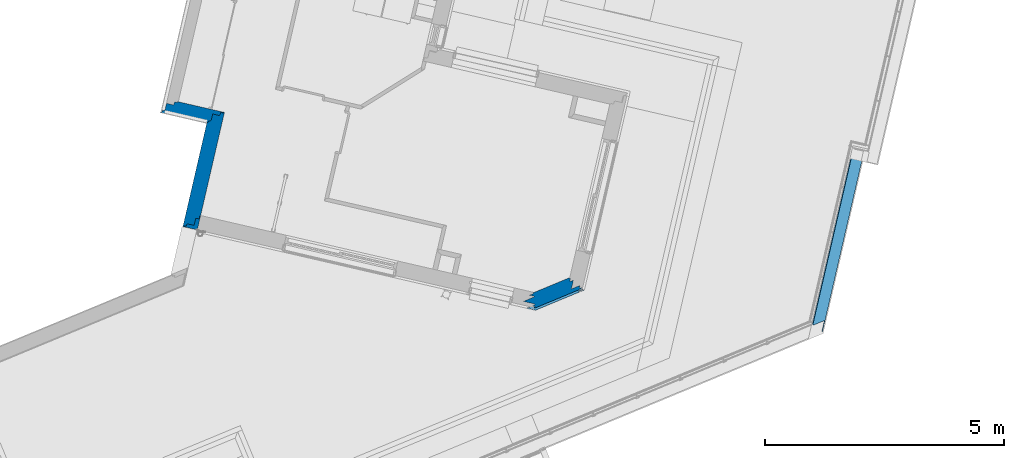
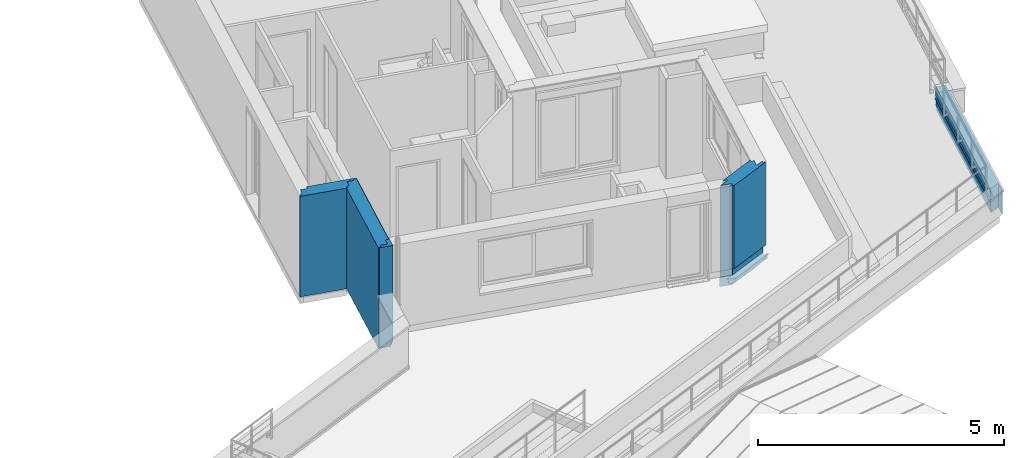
# One storey, part 6 of 47: 5 walls.
"""IFC2X3 building model written with IfcOpenShell, lengths in metres."""

from ifc_helpers import new_model, entity, si_unit, converted_unit, derived_unit, money_unit, direction, frame, origin_with_axes, place, context, subcontext, project, spatial, faceted_brep, material, material_list, type_object, element, save


model = new_model("IFC2X3")

# Units and contexts
model_context = context("Model", 3, precision=1e-05, world=origin_with_axes(), true_north=direction((0.0, 1.0)))
body_context = subcontext(model_context, "Body", "Model", "MODEL_VIEW")
ifc_project = project(units=[si_unit("LENGTHUNIT", "METRE"), si_unit("AREAUNIT", "SQUARE_METRE"), si_unit("VOLUMEUNIT", "CUBIC_METRE"), converted_unit("PLANEANGLEUNIT", "DEGREE", entity("IfcPlaneAngleMeasure", 0.0174532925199), si_unit("PLANEANGLEUNIT", "RADIAN"), dimensions=[0, 0, 0, 0, 0, 0, 0]), si_unit("SOLIDANGLEUNIT", "STERADIAN"), money_unit("EUR"), converted_unit("TIMEUNIT", "Year", entity("IfcTimeMeasure", 31556926.0), si_unit("TIMEUNIT", "SECOND"), dimensions=[0, 0, 1, 0, 0, 0, 0]), si_unit("MASSUNIT", "GRAM", prefix="KILO"), si_unit("THERMODYNAMICTEMPERATUREUNIT", "DEGREE_CELSIUS"), si_unit("LUMINOUSINTENSITYUNIT", "LUMEN"), si_unit("ENERGYUNIT", "JOULE", prefix="MEGA"), derived_unit("THERMALCONDUCTANCEUNIT", [(si_unit("POWERUNIT", "WATT"), 1), (si_unit("LENGTHUNIT", "METRE"), -1), (si_unit("THERMODYNAMICTEMPERATUREUNIT", "KELVIN"), -1)]), derived_unit("SPECIFICHEATCAPACITYUNIT", [(si_unit("ENERGYUNIT", "JOULE"), 1), (si_unit("MASSUNIT", "GRAM", prefix="KILO"), -1), (si_unit("THERMODYNAMICTEMPERATUREUNIT", "KELVIN"), -1)]), derived_unit("MASSDENSITYUNIT", [(si_unit("MASSUNIT", "GRAM", prefix="KILO"), 1), (si_unit("VOLUMEUNIT", "CUBIC_METRE"), -1)])], contexts=[model_context])

# Site, building, storey
site_placement = place(None, origin_with_axes())
site = spatial("IfcSite", under=ifc_project, at=site_placement, Name="Site", CompositionType="ELEMENT")
building_placement = place(site_placement, origin_with_axes())
building = spatial("IfcBuilding", under=site, at=building_placement, Name="Bâtiment", CompositionType="ELEMENT")
storey_placement = place(building_placement, frame((0.0, 0.0, 10.88), z_axis=(0.0, 0.0, 1.0), x_axis=(1.0, 0.0, 0.0)))
storey = spatial("IfcBuildingStorey", under=building, at=storey_placement, Name="R+4", CompositionType="ELEMENT", Elevation=10.88)

# Walls
ifc_material_1 = material(Name="Finition ext - Crépis")
ifc_material_2 = material(Name="Béton")
ifc_material_3 = material(Name="Etanchéité - Bitume")
ifc_material_4 = material(Name="Métal - Aluminium")
ifc_material_list_1 = material_list([ifc_material_1, ifc_material_2, ifc_material_3, ifc_material_1, ifc_material_4])
wall_type_1 = type_object("IfcWallType", Name="Acrotère pour plancher 23 isolée 242 x 600", PredefinedType="USERDEFINED")
wall_1_placement = place(storey_placement, frame((-5.37699047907, -10.3127234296, 0.02), z_axis=(0.0, 0.0, 1.0), x_axis=(-0.224876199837, -0.974387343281, 0.0)))
element("IfcWall", 1, at=wall_1_placement, inside=storey, type_object=wall_type_1, material=ifc_material_list_1, Name="Muret béton 20cm", ObjectType="PARAPET", context=body_context, shape_type="Brep", body=[
    faceted_brep([(0.0, 0.015, 0.318976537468), (0.0, 0.015, 0.357041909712), (0.0, 0.015, 0.600000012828), (3.67693870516, 0.015, 0.600000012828), (3.67693870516, 0.015, 0.357041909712), (3.67693870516, 0.015, 0.318976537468), (3.67693870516, 0.015, 0.309999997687), (3.67693870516, 0.015, 0.282881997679), (3.67693870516, 0.015, 0.100000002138), (3.67693870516, 0.015, 0.0), (0.0, 0.015, 0.0), (0.0, 0.015, 0.100000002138), (0.0, 0.015, 0.282881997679), (0.0, 0.015, 0.309999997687), (0.0, -3.20696358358e-10, 0.318976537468), (0.0, -3.20696358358e-10, 0.357041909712), (0.0, -3.20694582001e-10, 0.600000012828), (3.68764687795, -3.20697246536e-10, 0.600000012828), (3.68764687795, -3.2069547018e-10, 0.357041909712), (3.68764687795, -3.2069547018e-10, 0.318976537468), (3.68764687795, -3.2069547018e-10, 0.309999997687), (3.68764687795, -3.2069547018e-10, 0.282881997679), (3.68764687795, -3.2069547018e-10, 0.100000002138), (3.68764687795, -3.20697246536e-10, 0.0), (0.0, -3.20696358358e-10, 0.0), (0.0, -3.20696358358e-10, 0.100000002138), (0.0, -3.20696358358e-10, 0.282881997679), (0.0, -3.20696358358e-10, 0.309999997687)], [[[0, 1, 2, 3, 4, 5, 6, 7, 8, 9, 10, 11, 12, 13]], [[14, 15, 1, 0]], [[15, 16, 2, 1]], [[3, 2, 16, 17]], [[18, 4, 3, 17]], [[5, 4, 18, 19]], [[6, 5, 19, 20]], [[7, 6, 20, 21]], [[8, 7, 21, 22]], [[9, 8, 22, 23]], [[23, 24, 10, 9]], [[24, 25, 11, 10]], [[25, 26, 12, 11]], [[26, 27, 13, 12]], [[27, 14, 0, 13]], [[17, 16, 15, 14, 27, 26, 25, 24, 23, 22, 21, 20, 19, 18]]]),
    faceted_brep([(-0.2, 0.0, 0.318976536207), (-0.200000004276, 0.0, 0.357041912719), (-0.200000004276, 0.0, 0.600000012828), (3.44191351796, 0.0, 0.600000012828), (3.44191351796, 0.0, 0.357041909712), (3.44191351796, 0.0, 0.318976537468), (3.44191351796, 0.0, 0.309999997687), (3.44191351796, 0.0, 0.282881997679), (3.44191351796, 0.0, 0.100000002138), (3.44191351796, 0.0, 0.0), (-0.200000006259, 0.0, 0.0), (-0.200000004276, 0.0, 0.100000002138), (-0.200000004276, 0.0, 0.282881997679), (-0.200000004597, 0.0, 0.309999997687), (-0.199999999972, -0.200000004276, 0.318976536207), (-0.200000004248, -0.200000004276, 0.357041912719), (-0.200000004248, -0.200000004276, 0.600000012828), (3.58468915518, -0.200000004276, 0.600000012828), (3.58468915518, -0.200000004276, 0.357041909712), (3.58468915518, -0.200000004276, 0.318976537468), (3.58468915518, -0.200000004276, 0.309999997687), (3.58468915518, -0.200000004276, 0.282881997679), (3.58468915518, -0.200000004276, 0.100000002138), (3.58468915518, -0.200000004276, 0.0), (-0.200000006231, -0.200000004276, 0.0), (-0.200000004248, -0.200000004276, 0.100000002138), (-0.200000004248, -0.200000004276, 0.282881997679), (-0.200000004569, -0.200000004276, 0.309999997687)], [[[0, 1, 2, 3, 4, 5, 6, 7, 8, 9, 10, 11, 12, 13]], [[14, 15, 1, 0]], [[15, 16, 2, 1]], [[3, 2, 16, 17]], [[18, 4, 3, 17]], [[5, 4, 18, 19]], [[6, 5, 19, 20]], [[7, 6, 20, 21]], [[8, 7, 21, 22]], [[9, 8, 22, 23]], [[10, 9, 23, 24]], [[24, 25, 11, 10]], [[25, 26, 12, 11]], [[26, 27, 13, 12]], [[27, 14, 0, 13]], [[17, 16, 15, 14, 19, 18]], [[19, 14, 27, 20]], [[20, 27, 26, 25, 22, 21]], [[24, 23, 22, 25]]]),
    faceted_brep([(3.57240249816, -0.2, 0.109999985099), (-0.199999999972, -0.2, 0.109999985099), (-0.20999999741, -0.200000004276, 0.109999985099), (-0.209999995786, -0.200000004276, 0.282881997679), (-0.209999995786, -0.200000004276, 0.309999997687), (3.57240249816, -0.200000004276, 0.309999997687), (3.57240249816, -0.200000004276, 0.282881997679), (-0.209999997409, -0.209999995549, 0.109999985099), (3.57954127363, -0.209999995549, 0.109999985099), (-0.209999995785, -0.209999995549, 0.282881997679), (-0.209999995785, -0.209999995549, 0.309999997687), (3.57954127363, -0.209999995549, 0.309999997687), (3.57954127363, -0.209999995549, 0.282881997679)], [[[0, 1, 2, 3, 4, 5, 6]], [[7, 2, 1, 0, 8]], [[2, 7, 9, 3]], [[9, 10, 4, 3]], [[5, 4, 10, 11]], [[12, 6, 5, 11]], [[8, 0, 6, 12]], [[7, 8, 12, 11, 10, 9]]]),
    faceted_brep([(3.57696732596, -0.215000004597, 0.600000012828), (3.56625915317, -0.200000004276, 0.600000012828), (-0.215000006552, -0.200000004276, 0.600000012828), (-0.21500000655, -0.215000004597, 0.600000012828), (3.56625915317, -0.200000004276, 0.357041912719), (3.57696732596, -0.215000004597, 0.357041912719), (3.56700543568, -0.201045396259, 0.357041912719), (-0.215000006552, -0.200000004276, 0.357041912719), (-0.21500000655, -0.215000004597, 0.357041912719), (-0.215000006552, -0.201045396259, 0.357041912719)], [[[0, 1, 2, 3]], [[4, 1, 0, 5, 6]], [[1, 4, 7, 2]], [[8, 3, 2, 7, 9]], [[5, 0, 3, 8]], [[6, 5, 8, 9]], [[4, 6, 9, 7]]]),
    faceted_brep([(3.58340471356, -0.2, 0.357041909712), (3.58340471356, -0.2, 0.320023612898), (3.5790681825, -0.199999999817, 0.318976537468), (-0.204574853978, -0.2, 0.318976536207), (-0.201045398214, -0.2, 0.320023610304), (-0.201045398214, -0.2, 0.357041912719), (3.58415099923, -0.201045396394, 0.357041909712), (3.58415099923, -0.201045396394, 0.320023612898), (3.58233406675, -0.204574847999, 0.318976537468), (3.56709279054, -0.222655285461, 0.312179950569), (3.5696593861, -0.226250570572, 0.311101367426), (-0.227484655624, -0.226250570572, 0.311101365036), (-0.227484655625, -0.222655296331, 0.312179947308), (-0.201045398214, -0.201045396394, 0.320023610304), (-0.227484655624, -0.227484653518, 0.312179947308), (-0.201045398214, -0.201045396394, 0.357041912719), (3.57054037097, -0.227484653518, 0.312179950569), (3.57054037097, -0.227484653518, 0.309999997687), (3.5696593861, -0.226250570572, 0.309999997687), (3.5696593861, -0.226250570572, 0.282882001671), (-0.227484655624, -0.226250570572, 0.282881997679), (-0.227484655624, -0.227484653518, 0.282881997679), (3.57054037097, -0.227484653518, 0.282882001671)], [[[0, 1, 2, 3, 4, 5]], [[1, 0, 6, 7]], [[8, 2, 1, 7]], [[9, 10, 11, 12, 3, 2]], [[13, 4, 3, 12, 14]], [[13, 15, 5, 4]], [[6, 0, 5, 15]], [[7, 6, 15, 13]], [[2, 8, 16, 9]], [[8, 7, 13, 14, 16]], [[10, 9, 16, 17, 18]], [[10, 18, 19, 20, 11]], [[14, 12, 11, 20, 21]], [[17, 16, 14, 21, 22]], [[18, 17, 22, 19]], [[19, 22, 21, 20]]]),
])
ifc_material_5 = material(Name="Finition int - Plaque de plâtre")
ifc_material_6 = material(Name="Isolation - Laine de verre")
ifc_material_7 = material(Name="Etanchéité - Pare-vapeur")
ifc_material_8 = material(Name="Bois - Massif 01")
ifc_material_9 = material(Name="Bois - OSB 02")
ifc_material_10 = material(Name="Bois - Lattage")
ifc_material_11 = material(Name="Isolation - Polyuréthane (extérieur)")
ifc_material_12 = material(Name="Finition ext - Bardage bois")
ifc_material_list_2 = material_list([ifc_material_5, ifc_material_6, ifc_material_7, ifc_material_8, ifc_material_8, ifc_material_6, ifc_material_2, ifc_material_9, ifc_material_10, ifc_material_11, ifc_material_12, ifc_material_3, ifc_material_4])
wall_type_2 = type_object("IfcWallType", Name="Mur ossature Bois avec talon béton 358 x 2500", PredefinedType="ELEMENTEDWALL")
wall_2_placement = place(storey_placement, frame((-12.2050527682, -13.4002992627, 0.02), z_axis=(0.0, 0.0, 1.0), x_axis=(0.923701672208, 0.383112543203, 0.0)))
element("IfcWall", 2, at=wall_2_placement, inside=storey, type_object=wall_type_2, material=ifc_material_list_2, Name="M_Ext-009", ObjectType="ELEMENTEDWALL", context=body_context, shape_type="Brep", body=[
    faceted_brep([(0.0683179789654, 0.309999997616, 2.48), (0.910906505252, 0.309999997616, 2.48), (0.910906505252, 0.309999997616, 2.455), (0.910906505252, 0.309999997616, 0.435), (0.910906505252, 0.309999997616, 0.275), (0.910906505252, 0.309999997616, 0.23), (0.910906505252, 0.309999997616, 0.2), (0.910906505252, 0.309999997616, 0.100000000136), (0.910906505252, 0.309999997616, 0.0), (0.0683179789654, 0.309999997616, 0.0), (0.0683179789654, 0.309999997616, 0.100000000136), (0.0683179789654, 0.309999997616, 0.2), (0.0683179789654, 0.309999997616, 0.23), (0.0683179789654, 0.309999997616, 0.275), (0.0683179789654, 0.309999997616, 0.435), (0.0683179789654, 0.309999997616, 2.455), (0.898056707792, 0.292000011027, 2.48), (0.0935323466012, 0.292000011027, 2.48), (0.898056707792, 0.292000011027, 2.455), (0.898056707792, 0.292000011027, 0.435), (0.898056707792, 0.292000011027, 0.275), (0.898056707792, 0.292000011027, 0.23), (0.898056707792, 0.292000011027, 0.2), (0.898056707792, 0.292000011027, 0.100000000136), (0.898056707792, 0.292000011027, 0.0), (0.0935323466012, 0.292000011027, 0.0), (0.0935323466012, 0.292000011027, 0.100000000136), (0.0935323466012, 0.292000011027, 0.2), (0.0935323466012, 0.292000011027, 0.23), (0.0935323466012, 0.292000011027, 0.275), (0.0935323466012, 0.292000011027, 0.435), (0.0935323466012, 0.292000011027, 2.455)], [[[0, 1, 2, 3, 4, 5, 6, 7, 8, 9, 10, 11, 12, 13, 14, 15]], [[16, 1, 0, 17]], [[1, 16, 18, 2]], [[3, 2, 18, 19]], [[4, 3, 19, 20]], [[5, 4, 20, 21]], [[6, 5, 21, 22]], [[7, 6, 22, 23]], [[8, 7, 23, 24]], [[24, 25, 9, 8]], [[25, 26, 10, 9]], [[26, 27, 11, 10]], [[27, 28, 12, 11]], [[28, 29, 13, 12]], [[29, 30, 14, 13]], [[30, 31, 15, 14]], [[17, 0, 15, 31]], [[16, 17, 31, 30, 29, 28, 27, 26, 25, 24, 23, 22, 21, 20, 19, 18]]]),
    faceted_brep([(0.920172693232, 0.292000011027, 2.5), (-0.00973456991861, 0.292000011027, 2.5), (0.0743133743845, 0.232000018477, 2.5), (0.87734000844, 0.232000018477, 2.5), (-0.00973456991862, 0.292000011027, 0.435), (-0.00973456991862, 0.292000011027, 2.455), (0.920172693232, 0.292000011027, 2.455), (0.920172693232, 0.292000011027, 0.435), (0.920172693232, 0.292000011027, 0.275), (0.920172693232, 0.292000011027, 0.23), (0.920172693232, 0.292000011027, 0.2), (0.920172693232, 0.292000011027, 0.100000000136), (0.920172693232, 0.292000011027, 0.0), (-0.00973456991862, 0.292000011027, 0.0), (-0.00973456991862, 0.292000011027, 0.100000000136), (-0.00973456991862, 0.292000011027, 0.2), (-0.00973456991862, 0.292000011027, 0.23), (-0.00973456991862, 0.292000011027, 0.275), (0.0743133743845, 0.232000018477, 2.455), (0.0743133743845, 0.232000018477, 0.435), (0.0743133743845, 0.232000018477, 0.275), (0.0743133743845, 0.232000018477, 0.23), (0.0743133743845, 0.232000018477, 0.2), (0.0743133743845, 0.232000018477, 0.100000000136), (0.0743133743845, 0.232000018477, 0.0), (0.87734000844, 0.232000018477, 0.0), (0.87734000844, 0.232000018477, 0.100000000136), (0.87734000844, 0.232000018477, 0.2), (0.87734000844, 0.232000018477, 0.23), (0.87734000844, 0.232000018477, 0.275), (0.87734000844, 0.232000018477, 0.435), (0.87734000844, 0.232000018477, 2.455)], [[[0, 1, 2, 3]], [[4, 5, 1, 0, 6, 7, 8, 9, 10, 11, 12, 13, 14, 15, 16, 17]], [[5, 18, 2, 1]], [[3, 2, 18, 19, 20, 21, 22, 23, 24, 25, 26, 27, 28, 29, 30, 31]], [[31, 6, 0, 3]], [[19, 18, 5, 4]], [[7, 6, 31, 30]], [[8, 7, 30, 29]], [[9, 8, 29, 28]], [[10, 9, 28, 27]], [[11, 10, 27, 26]], [[12, 11, 26, 25]], [[25, 24, 13, 12]], [[24, 23, 14, 13]], [[23, 22, 15, 14]], [[22, 21, 16, 15]], [[21, 20, 17, 16]], [[20, 19, 4, 17]]]),
    faceted_brep([(0.951060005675, 0.232000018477, 2.5), (0.0571021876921, 0.232000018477, 2.5), (0.0711102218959, 0.221999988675, 2.5), (0.943921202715, 0.221999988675, 2.5), (0.0571021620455, 0.232000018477, 0.435), (0.0571021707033, 0.232000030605, 2.455), (0.951060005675, 0.232000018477, 2.455), (0.951060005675, 0.232000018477, 0.435), (0.951060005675, 0.232000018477, 0.275), (0.951060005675, 0.232000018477, 0.23), (0.951060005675, 0.232000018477, 0.2), (0.951060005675, 0.232000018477, 0.100000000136), (0.951060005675, 0.232000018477, 0.0), (0.0571021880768, 0.232000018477, 0.0), (0.0571021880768, 0.232000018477, 0.100000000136), (0.0571021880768, 0.232000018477, 0.2), (0.057102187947, 0.232000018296, 0.23), (0.0571021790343, 0.23200000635, 0.275), (0.0711102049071, 0.222000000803, 2.455), (0.0711101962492, 0.221999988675, 0.435), (0.071110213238, 0.221999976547, 0.275), (0.0711102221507, 0.221999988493, 0.23), (0.0711102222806, 0.221999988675, 0.2), (0.0711102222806, 0.221999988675, 0.100000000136), (0.0711102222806, 0.221999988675, 0.0), (0.943921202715, 0.221999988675, 0.0), (0.943921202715, 0.221999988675, 0.100000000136), (0.943921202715, 0.221999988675, 0.2), (0.943921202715, 0.221999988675, 0.23), (0.943921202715, 0.221999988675, 0.275), (0.943921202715, 0.221999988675, 0.435), (0.943921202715, 0.221999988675, 2.455)], [[[0, 1, 2, 3]], [[4, 5, 1, 0, 6, 7, 8, 9, 10, 11, 12, 13, 14, 15, 16, 17]], [[5, 18, 2, 1]], [[3, 2, 18, 19, 20, 21, 22, 23, 24, 25, 26, 27, 28, 29, 30, 31]], [[31, 6, 0, 3]], [[19, 18, 5, 4]], [[7, 6, 31, 30]], [[8, 7, 30, 29]], [[9, 8, 29, 28]], [[10, 9, 28, 27]], [[11, 10, 27, 26]], [[12, 11, 26, 25]], [[25, 24, 13, 12]], [[24, 23, 14, 13]], [[23, 22, 15, 14]], [[22, 21, 16, 15]], [[21, 20, 17, 16]], [[20, 19, 4, 17]]]),
    faceted_brep([(-0.178451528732, 0.222, 0.275), (0.0246643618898, 0.077, 0.275), (0.852695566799, 0.077, 0.275), (0.956207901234, 0.222, 0.275), (0.0246643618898, 0.077, 0.230000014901), (-0.178451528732, 0.222, 0.230000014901), (0.852695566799, 0.077, 0.23), (0.956207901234, 0.222, 0.23)], [[[0, 1, 2, 3]], [[4, 1, 0, 5]], [[1, 4, 6, 2]], [[7, 3, 2, 6]], [[5, 0, 3, 7]], [[4, 5, 7, 6]]]),
    faceted_brep([(-0.178451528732, 0.222, 2.5), (0.0246643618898, 0.077, 2.5), (0.852695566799, 0.077, 2.5), (0.956207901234, 0.222, 2.5), (0.0246643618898, 0.077, 2.455), (-0.178451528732, 0.222, 2.455), (0.852695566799, 0.077, 2.455), (0.956207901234, 0.222, 2.455)], [[[0, 1, 2, 3]], [[4, 1, 0, 5]], [[1, 4, 6, 2]], [[7, 3, 2, 6]], [[5, 0, 3, 7]], [[4, 5, 7, 6]]]),
    faceted_brep([(-0.178451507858, 0.221999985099, 2.455), (0.0246643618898, 0.077, 2.455), (0.852695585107, 0.077, 2.4550000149), (0.956207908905, 0.221999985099, 2.4550000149), (0.0246643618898, 0.077, 0.435), (-0.178451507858, 0.221999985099, 0.435), (0.0246643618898, 0.077, 0.275), (0.852695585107, 0.077, 0.275), (0.852695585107, 0.077, 0.435), (0.956207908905, 0.221999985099, 0.435), (0.956207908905, 0.221999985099, 0.275), (-0.178451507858, 0.221999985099, 0.275)], [[[0, 1, 2, 3]], [[4, 1, 0, 5]], [[1, 4, 6, 7, 8, 2]], [[9, 3, 2, 8]], [[5, 0, 3, 9, 10, 11]], [[4, 5, 11, 6]], [[6, 11, 10, 7]], [[9, 8, 7, 10]]]),
    faceted_brep([(0.956207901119, 0.222000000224, 0.23), (-0.204268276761, 0.222000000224, 0.230000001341), (0.0198596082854, 0.0619999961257, 0.230000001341), (0.841987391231, 0.0619999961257, 0.23), (-0.204268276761, 0.222000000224, 0.100000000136), (-0.204268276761, 0.222000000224, 0.2), (0.956207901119, 0.222000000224, 0.2), (0.956207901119, 0.222000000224, 0.100000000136), (0.956207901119, 0.222000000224, 0.0), (-0.204268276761, 0.222000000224, 0.0), (0.0198596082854, 0.0619999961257, 0.2), (0.0198596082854, 0.0619999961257, 0.100000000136), (0.0198596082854, 0.0619999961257, 0.0), (0.841987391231, 0.0619999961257, 0.0), (0.841987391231, 0.0619999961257, 0.100000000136), (0.841987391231, 0.0619999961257, 0.2)], [[[0, 1, 2, 3]], [[4, 5, 1, 0, 6, 7, 8, 9]], [[5, 10, 2, 1]], [[3, 2, 10, 11, 12, 13, 14, 15]], [[15, 6, 0, 3]], [[11, 10, 5, 4]], [[7, 6, 15, 14]], [[8, 7, 14, 13]], [[13, 12, 9, 8]], [[12, 11, 4, 9]]]),
    faceted_brep([(0.00401094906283, 0.0770000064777, 2.5), (0.020820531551, 0.065000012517, 2.5), (1.02228571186, 0.065000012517, 2.5), (1.03085224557, 0.0770000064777, 2.5), (0.020820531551, 0.065000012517, 2.455), (0.00401094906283, 0.0770000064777, 2.455), (0.0208205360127, 0.0650000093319, 0.435000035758), (0.0208205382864, 0.065000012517, 0.275), (0.0208205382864, 0.065000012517, 0.23), (1.02228571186, 0.065000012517, 0.230000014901), (1.02228571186, 0.065000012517, 0.275), (1.02228571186, 0.065000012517, 0.435), (1.02228571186, 0.065000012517, 2.455), (1.03085224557, 0.0770000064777, 2.455), (1.03085224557, 0.0770000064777, 0.435), (1.03085224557, 0.0770000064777, 0.275), (1.03085224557, 0.0770000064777, 0.230000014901), (0.00401095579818, 0.0770000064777, 0.23), (0.00401095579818, 0.0770000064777, 0.275), (0.00401095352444, 0.0770000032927, 0.435000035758)], [[[0, 1, 2, 3]], [[4, 1, 0, 5]], [[1, 4, 6, 7, 8, 9, 10, 11, 12, 2]], [[13, 3, 2, 12]], [[5, 0, 3, 13, 14, 15, 16, 17, 18, 19]], [[4, 5, 19, 6]], [[6, 19, 18, 7]], [[7, 18, 17, 8]], [[8, 17, 16, 9]], [[15, 10, 9, 16]], [[14, 11, 10, 15]], [[13, 12, 11, 14]]]),
    faceted_brep([(-0.0480240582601, 0.0649999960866, 2.5), (0.00800791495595, 0.024999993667, 2.5), (1.00847458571, 0.024999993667, 2.5), (1.03702971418, 0.0649999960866, 2.5), (0.00800791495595, 0.024999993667, 2.455), (-0.0480240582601, 0.0649999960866, 2.455), (0.00800791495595, 0.024999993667, 0.435), (1.00847458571, 0.024999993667, 0.435000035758), (1.00847458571, 0.024999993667, 2.455), (1.03702971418, 0.0649999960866, 2.455), (1.03702971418, 0.0649999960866, 0.435000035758), (-0.0480240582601, 0.0649999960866, 0.435), (-0.0410200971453, 0.0600000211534, 0.435), (1.03346034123, 0.0600000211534, 0.435000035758)], [[[0, 1, 2, 3]], [[4, 1, 0, 5]], [[1, 4, 6, 7, 8, 2]], [[9, 3, 2, 8]], [[5, 0, 3, 9, 10, 11]], [[4, 5, 11, 12, 6]], [[6, 12, 13, 7]], [[9, 8, 7, 13, 10]], [[12, 11, 10, 13]]]),
    faceted_brep([(0.981463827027, -0.0180000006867, 0.0999999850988), (1.03857407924, 0.0619999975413, 0.0999999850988), (1.03857407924, 0.0619999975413, 0.2), (0.981463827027, -0.0180000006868, 0.2), (0.841987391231, 0.0619999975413, 0.0999999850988), (-0.0057656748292, -0.0180000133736, 0.0999999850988), (-0.117829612, 0.0619999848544, 0.0999999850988), (0.0198596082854, 0.0619999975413, 0.0999999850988), (-0.117829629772, 0.0619999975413, 0.2), (-0.117829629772, 0.0619999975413, 0.230000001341), (1.03857407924, 0.0619999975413, 0.230000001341), (0.981463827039, -0.0180000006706, 0.230000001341), (-0.00576569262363, -0.0180000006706, 0.230000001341), (-0.00576569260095, -0.0180000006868, 0.2)], [[[0, 1, 2, 3]], [[4, 1, 0, 5, 6, 7]], [[7, 6, 8, 9, 10, 2, 1, 4]], [[3, 2, 10, 11]], [[5, 0, 3, 11, 12, 13]], [[6, 5, 13, 8]], [[8, 13, 12, 9]], [[10, 9, 12, 11]]]),
    faceted_brep([(1.03977430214, 0.0, 2.5), (1.05762125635, 0.025, 2.5), (-0.0350199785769, 0.025, 2.5), (2.5646720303e-09, 0.0, 2.5), (1.05762125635, 0.025, 2.455), (1.03977430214, 0.0, 2.455), (1.05762125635, 0.025, 0.435), (-0.0350199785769, 0.025, 0.434999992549), (2.5646720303e-09, 0.0, 0.434999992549), (1.03977430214, 0.0, 0.435)], [[[0, 1, 2, 3]], [[4, 1, 0, 5]], [[1, 4, 6, 7, 2]], [[7, 8, 3, 2]], [[5, 0, 3, 8, 9]], [[4, 5, 9, 6]], [[6, 9, 8, 7]]]),
    faceted_brep([(1.07261838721, -0.0279999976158, 0.109999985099), (1.0797571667, -0.0180000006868, 0.109999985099), (1.0797571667, -0.0180000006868, 0.2), (1.07261838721, -0.0279999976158, 0.2), (0.981463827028, -0.0180000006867, 0.109999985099), (-0.00896888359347, -0.0279999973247, 0.109999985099), (-0.0229768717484, -0.0180000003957, 0.109999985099), (-0.005765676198, -0.0180000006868, 0.109999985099), (-0.0229768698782, -0.017999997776, 0.2), (-0.0229768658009, -0.0180000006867, 0.230000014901), (1.0797571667, -0.0180000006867, 0.230000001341), (1.07261838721, -0.0279999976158, 0.230000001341), (-0.00896887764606, -0.0279999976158, 0.230000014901), (-0.00896888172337, -0.0279999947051, 0.2)], [[[0, 1, 2, 3]], [[4, 1, 0, 5, 6, 7]], [[7, 6, 8, 9, 10, 2, 1, 4]], [[3, 2, 10, 11]], [[5, 0, 3, 11, 12, 13]], [[6, 5, 13, 8]], [[8, 13, 12, 9]], [[10, 9, 12, 11]]]),
    faceted_brep([(1.03346032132, 0.06, 0.435), (1.03702971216, 0.065, 0.435), (0.0122149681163, 0.065, 0.434999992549), (0.0192189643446, 0.06, 0.434999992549), (1.03702971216, 0.065, 0.275), (1.03346032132, 0.06, 0.275), (1.03702971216, 0.065, 0.23), (-0.173665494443, 0.065, 0.23), (-0.173665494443, 0.065, 0.234999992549), (0.0122149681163, 0.065, 0.234999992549), (0.0192189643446, 0.06, 0.234999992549), (1.03346032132, 0.06, 0.234999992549), (0.956361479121, -0.048, 0.234999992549), (0.956361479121, -0.048, 0.23), (0.959930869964, -0.043, 0.23), (0.970639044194, -0.0279999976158, 0.23), (-0.0433911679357, -0.0279999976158, 0.230000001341), (-0.0223791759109, -0.043, 0.2), (-0.0153751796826, -0.048, 0.2), (-0.0153751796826, -0.048, 0.234999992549), (-0.166661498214, 0.06, 0.234999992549), (-0.0223791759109, -0.043, 0.23), (1.08905749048, -0.048, 0.2), (1.08905749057, -0.0480000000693, 0.23), (1.0706274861, -0.048, 0.230000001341), (1.07419687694, -0.043, 0.230000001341), (1.09262688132, -0.043, 0.2), (1.09262688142, -0.0430000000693, 0.23)], [[[0, 1, 2, 3]], [[4, 1, 0, 5]], [[1, 4, 6, 7, 8, 9, 2]], [[9, 10, 3, 2]], [[5, 0, 3, 10, 11]], [[4, 5, 11, 12, 13, 14, 15, 6]], [[6, 15, 16, 7]], [[17, 18, 19, 20, 8, 7, 16, 21]], [[8, 20, 10, 9]], [[12, 11, 10, 20, 19]], [[13, 12, 19, 18, 22, 23, 24]], [[25, 14, 13, 24]], [[15, 14, 21, 16]], [[26, 22, 18, 17]], [[14, 25, 27, 26, 17, 21]], [[27, 23, 22, 26]], [[23, 27, 25, 24]]]),
])
ifc_material_list_3 = material_list([ifc_material_5, ifc_material_6, ifc_material_7, ifc_material_6, ifc_material_9, ifc_material_10, ifc_material_12])
wall_type_3 = type_object("IfcWallType", Name="1 - Mur Ossature Bois 145 isolé + bardage 310", PredefinedType="ELEMENTEDWALL")
wall_3_placement = place(storey_placement, frame((-19.0827130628, -9.5228321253, 0.02), z_axis=(0.0, 0.0, 1.0), x_axis=(-0.224876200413, -0.974387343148, 0.0)))
element("IfcWall", 3, at=wall_3_placement, inside=storey, type_object=wall_type_3, material=ifc_material_list_3, Name="M_Ext-009", ObjectType="ELEMENTEDWALL", context=body_context, shape_type="Brep", body=[
    faceted_brep([(-0.295000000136, 0.292, 2.48), (-0.295000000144, 0.31, 2.48), (-0.295000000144, 0.31, 0.0), (-0.295000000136, 0.292, 0.0), (1.93953279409, 0.31, 2.48), (1.9395327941, 0.292, 2.48), (1.93953279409, 0.31, 0.0), (1.9395327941, 0.292, 0.0)], [[[0, 1, 2, 3]], [[4, 1, 0, 5]], [[1, 4, 6, 2]], [[6, 7, 3, 2]], [[5, 0, 3, 7]], [[4, 5, 7, 6]]]),
    faceted_brep([(1.9995327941, 0.292, 0.0), (1.99953279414, 0.232, 0.0), (-0.277000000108, 0.232, 0.0), (-0.277000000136, 0.292, 0.0), (1.9995327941, 0.292, 2.5), (1.99953279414, 0.232, 2.5), (-0.277000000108, 0.232, 2.5), (-0.277000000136, 0.292, 2.5)], [[[0, 1, 2, 3]], [[1, 0, 4, 5]], [[1, 5, 6, 2]], [[7, 3, 2, 6]], [[4, 0, 3, 7]], [[5, 4, 7, 6]]]),
    faceted_brep([(2.00953279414, 0.232, 0.0), (2.00953279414, 0.222, 0.0), (-0.217000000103, 0.222, 0.0), (-0.217000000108, 0.232, 0.0), (2.00953279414, 0.232, 2.5), (2.00953279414, 0.222, 2.5), (-0.217000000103, 0.222, 2.5), (-0.217000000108, 0.232, 2.5)], [[[0, 1, 2, 3]], [[1, 0, 4, 5]], [[1, 5, 6, 2]], [[7, 3, 2, 6]], [[4, 0, 3, 7]], [[5, 4, 7, 6]]]),
    faceted_brep([(2.15453279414, 0.222, 0.0), (2.15453279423, 0.077, 0.0), (-0.207000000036, 0.077, 0.0), (-0.207000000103, 0.222, 0.0), (2.15453279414, 0.222, 2.5), (2.15453279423, 0.077, 2.5), (-0.207000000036, 0.077, 2.5), (-0.207000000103, 0.222, 2.5)], [[[0, 1, 2, 3]], [[1, 0, 4, 5]], [[1, 5, 6, 2]], [[7, 3, 2, 6]], [[4, 0, 3, 7]], [[5, 4, 7, 6]]]),
    faceted_brep([(2.16653279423, 0.077, 0.0), (2.16653279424, 0.065, 0.0), (-0.0620000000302, 0.065, 0.0), (-0.0620000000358, 0.077, 0.0), (2.16653279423, 0.077, 2.5), (2.16653279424, 0.065, 2.5), (-0.0620000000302, 0.065, 2.5), (-0.0620000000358, 0.077, 2.5)], [[[0, 1, 2, 3]], [[1, 0, 4, 5]], [[1, 5, 6, 2]], [[7, 3, 2, 6]], [[4, 0, 3, 7]], [[5, 4, 7, 6]]]),
    faceted_brep([(2.20653279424, 0.065, 0.0), (2.20653279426, 0.025, 0.0), (-0.0500000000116, 0.025, 0.0), (-0.0500000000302, 0.065, 0.0), (2.20653279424, 0.065, 2.5), (2.20653279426, 0.025, 2.5), (-0.0500000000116, 0.025, 2.5), (-0.0500000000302, 0.065, 2.5)], [[[0, 1, 2, 3]], [[1, 0, 4, 5]], [[1, 5, 6, 2]], [[7, 3, 2, 6]], [[4, 0, 3, 7]], [[5, 4, 7, 6]]]),
    faceted_brep([(2.23153279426, 0.025, 0.0), (2.23153279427, 0.0, 0.0), (-0.01, 0.0, 0.0), (-0.0100000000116, 0.025, 0.0), (2.23153279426, 0.025, 2.5), (2.23153279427, 0.0, 2.5), (-0.01, 0.0, 2.5), (-0.0100000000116, 0.025, 2.5)], [[[0, 1, 2, 3]], [[1, 0, 4, 5]], [[1, 5, 6, 2]], [[7, 3, 2, 6]], [[4, 0, 3, 7]], [[5, 4, 7, 6]]]),
])
ifc_material_list_4 = material_list([ifc_material_12, ifc_material_10, ifc_material_9, ifc_material_6, ifc_material_7, ifc_material_6, ifc_material_5])
wall_4_placement = place(storey_placement, frame((-19.0827130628, -9.5228321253, 0.02), z_axis=(0.0, 0.0, 1.0), x_axis=(-0.974387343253, 0.22487619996, 0.0)))
element("IfcWall", 4, at=wall_4_placement, inside=storey, type_object=wall_type_3, material=ifc_material_list_4, Name="M_Ext-008", ObjectType="ELEMENTEDWALL", context=body_context, shape_type="Brep", body=[
    faceted_brep([(0.991999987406, -0.01, 2.5), (0.991999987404, 0.015, 2.5), (0.0, 0.015, 2.5), (0.0, -0.01, 2.5), (0.991999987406, -0.01, 0.0), (0.991999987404, 0.015, 0.0), (0.0, 0.015, 0.0), (0.0, -0.01, 0.0)], [[[0, 1, 2, 3]], [[1, 0, 4, 5]], [[1, 5, 6, 2]], [[7, 3, 2, 6]], [[4, 0, 3, 7]], [[5, 4, 7, 6]]]),
    faceted_brep([(0.966999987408, -0.05, 2.5), (0.966999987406, -0.01, 2.5), (-0.0250000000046, -0.01, 2.5), (-0.0250000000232, -0.05, 2.5), (0.966999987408, -0.05, 0.0), (0.966999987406, -0.01, 0.0), (-0.0250000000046, -0.01, 0.0), (-0.0250000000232, -0.05, 0.0)], [[[0, 1, 2, 3]], [[1, 0, 4, 5]], [[1, 5, 6, 2]], [[7, 3, 2, 6]], [[4, 0, 3, 7]], [[5, 4, 7, 6]]]),
    faceted_brep([(0.926999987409, -0.062, 2.5), (0.926999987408, -0.05, 2.5), (-0.0650000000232, -0.05, 2.5), (-0.0650000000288, -0.062, 2.5), (0.926999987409, -0.062, 0.0), (0.926999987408, -0.05, 0.0), (-0.0650000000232, -0.05, 0.0), (-0.0650000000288, -0.062, 0.0)], [[[0, 1, 2, 3]], [[1, 0, 4, 5]], [[1, 5, 6, 2]], [[7, 3, 2, 6]], [[4, 0, 3, 7]], [[5, 4, 7, 6]]]),
    faceted_brep([(0.914999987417, -0.207, 2.5), (0.914999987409, -0.062, 2.5), (-0.0770000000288, -0.062, 2.5), (-0.0770000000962, -0.207, 2.5), (0.914999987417, -0.207, 0.0), (0.914999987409, -0.062, 0.0), (-0.0770000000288, -0.062, 0.0), (-0.0770000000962, -0.207, 0.0)], [[[0, 1, 2, 3]], [[1, 0, 4, 5]], [[1, 5, 6, 2]], [[7, 3, 2, 6]], [[4, 0, 3, 7]], [[5, 4, 7, 6]]]),
    faceted_brep([(0.769999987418, -0.217, 2.5), (0.769999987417, -0.207, 2.5), (-0.222000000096, -0.207, 2.5), (-0.222000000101, -0.217, 2.5), (0.769999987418, -0.217, 0.0), (0.769999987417, -0.207, 0.0), (-0.222000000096, -0.207, 0.0), (-0.222000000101, -0.217, 0.0)], [[[0, 1, 2, 3]], [[1, 0, 4, 5]], [[1, 5, 6, 2]], [[7, 3, 2, 6]], [[4, 0, 3, 7]], [[5, 4, 7, 6]]]),
    faceted_brep([(0.759999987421, -0.277, 2.5), (0.759999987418, -0.217, 2.5), (-0.232000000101, -0.217, 2.5), (-0.232000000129, -0.277, 2.5), (0.759999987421, -0.277, 0.0), (0.759999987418, -0.217, 0.0), (-0.232000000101, -0.217, 0.0), (-0.232000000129, -0.277, 0.0)], [[[0, 1, 2, 3]], [[1, 0, 4, 5]], [[1, 5, 6, 2]], [[7, 3, 2, 6]], [[4, 0, 3, 7]], [[5, 4, 7, 6]]]),
    faceted_brep([(0.699999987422, -0.295, 2.48), (-0.292000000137, -0.295, 2.48), (-0.292000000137, -0.295, 0.0), (0.699999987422, -0.295, 0.0), (-0.292000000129, -0.277, 2.48), (0.699999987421, -0.277, 2.48), (-0.292000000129, -0.277, 0.0), (0.699999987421, -0.277, 0.0)], [[[0, 1, 2, 3]], [[4, 1, 0, 5]], [[1, 4, 6, 2]], [[7, 3, 2, 6]], [[5, 0, 3, 7]], [[4, 5, 7, 6]]]),
])
ifc_material_list_5 = material_list([ifc_material_12, ifc_material_10, ifc_material_9, ifc_material_6, ifc_material_7, ifc_material_6])
wall_5_placement = place(storey_placement, frame((-19.279098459, -11.7523052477, 0.02), z_axis=(0.0, 0.0, 1.0), x_axis=(-0.974387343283, 0.224876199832, 0.0)))
element("IfcWall", 5, at=wall_5_placement, inside=storey, type_object=wall_type_3, material=ifc_material_list_5, Name="M_Ext-009", ObjectType="ELEMENTEDWALL", context=body_context, shape_type="Brep", body=[
    faceted_brep([(0.0, 0.015, 0.0999999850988), (0.0, -0.01, 0.0999999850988), (0.0, -0.01, 2.5), (0.0, 0.015, 2.5), (0.0450000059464, -0.01, 0.0999999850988), (0.0450000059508, 0.015, 0.0999999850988), (0.0450000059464, -0.01, -1.49011736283e-08), (0.28500000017, -0.01, 0.0), (0.28500000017, -0.01, 2.5), (0.285000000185, 0.015, 2.5), (0.285000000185, 0.015, 0.0), (0.0450000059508, 0.015, -1.49011736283e-08)], [[[0, 1, 2, 3]], [[4, 1, 0, 5]], [[4, 6, 7, 8, 2, 1]], [[8, 9, 3, 2]], [[5, 0, 3, 9, 10, 11]], [[6, 4, 5, 11]], [[6, 11, 10, 7]], [[9, 8, 7, 10]]]),
    faceted_brep([(0.0, -0.01, 0.0999999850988), (0.0, -0.0500000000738, 0.0999999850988), (0.0, -0.05, 2.5), (0.0, -0.01, 2.5), (0.0450000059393, -0.05, 0.0999999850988), (0.0450000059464, -0.01, 0.0999999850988), (0.0450000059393, -0.05, -1.49011736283e-08), (0.245000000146, -0.05, 0.0), (0.245000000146, -0.05, 2.5), (0.24500000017, -0.01, 2.5), (0.24500000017, -0.01, 0.0), (0.0450000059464, -0.01, -1.49011736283e-08)], [[[0, 1, 2, 3]], [[4, 1, 0, 5]], [[4, 6, 7, 8, 2, 1]], [[8, 9, 3, 2]], [[5, 0, 3, 9, 10, 11]], [[6, 4, 5, 11]], [[6, 11, 10, 7]], [[9, 8, 7, 10]]]),
    faceted_brep([(0.233000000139, -0.062, 2.5), (0.233000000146, -0.05, 2.5), (0.0, -0.05, 2.5), (0.0, -0.062, 2.5), (0.233000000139, -0.062, 0.0), (0.233000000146, -0.05, 0.0), (0.0, -0.05, 0.0), (0.0, -0.062, 0.0)], [[[0, 1, 2, 3]], [[1, 0, 4, 5]], [[1, 5, 6, 2]], [[7, 3, 2, 6]], [[4, 0, 3, 7]], [[5, 4, 7, 6]]]),
    faceted_brep([(0.0880000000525, -0.207, 2.5), (0.0880000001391, -0.062, 2.5), (0.0, -0.062, 2.5), (0.0, -0.207, 2.5), (0.0880000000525, -0.207, 0.0), (0.0880000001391, -0.062, 0.0), (0.0, -0.062, 0.0), (0.0, -0.207, 0.0)], [[[0, 1, 2, 3]], [[1, 0, 4, 5]], [[1, 5, 6, 2]], [[7, 3, 2, 6]], [[4, 0, 3, 7]], [[5, 4, 7, 6]]]),
    faceted_brep([(0.0780000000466, -0.217, 2.5), (0.0780000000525, -0.207, 2.5), (0.0, -0.207, 2.5), (0.0, -0.217, 2.5), (0.0780000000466, -0.217, 0.0), (0.0780000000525, -0.207, 0.0), (0.0, -0.207, 0.0), (0.0, -0.217, 0.0)], [[[0, 1, 2, 3]], [[1, 0, 4, 5]], [[1, 5, 6, 2]], [[7, 3, 2, 6]], [[4, 0, 3, 7]], [[5, 4, 7, 6]]]),
    faceted_brep([(0.0180000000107, -0.277, 2.5), (0.0180000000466, -0.217, 2.5), (0.0, -0.217, 2.5), (0.0, -0.277, 2.5), (0.0180000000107, -0.277, 0.0), (0.0180000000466, -0.217, 0.0), (0.0, -0.217, 0.0), (0.0, -0.277, 0.0)], [[[0, 1, 2, 3]], [[1, 0, 4, 5]], [[1, 5, 6, 2]], [[7, 3, 2, 6]], [[4, 0, 3, 7]], [[5, 4, 7, 6]]]),
])

save(model, "model.ifc")
